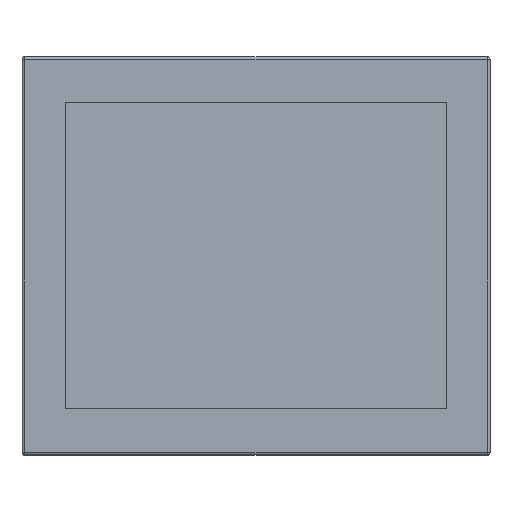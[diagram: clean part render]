
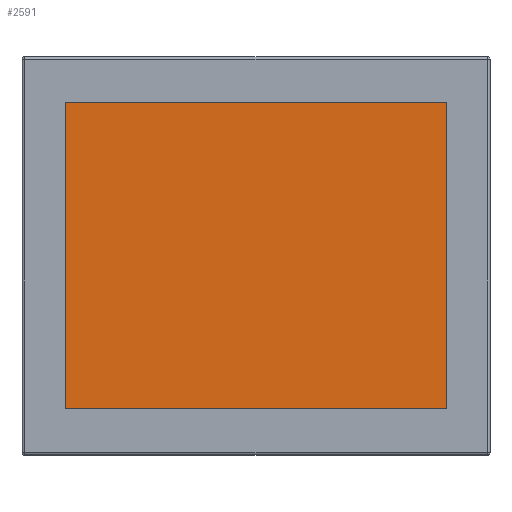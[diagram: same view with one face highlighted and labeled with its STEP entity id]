
A CAD part, top view. The second image highlights one B-rep face of the part: STEP entity #2591.
In plain terms, the highlighted planar face has unit normal (0, 0, 1).
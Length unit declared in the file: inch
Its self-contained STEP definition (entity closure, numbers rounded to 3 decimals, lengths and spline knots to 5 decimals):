
#377 = LINE ( 'NONE', #2727, #2238 ) ;
#594 = EDGE_LOOP ( 'NONE', ( #1218, #1362, #2497, #3131 ) ) ;
#827 = EDGE_CURVE ( 'NONE', #2493, #2643, #2195, .T. ) ;
#1150 = DIRECTION ( 'NONE',  ( 1., 0., 0. ) ) ;
#1165 = CARTESIAN_POINT ( 'NONE',  ( 7.495, 6.015, -0.095 ) ) ;
#1218 = ORIENTED_EDGE ( 'NONE', *, *, #2313, .T. ) ;
#1226 = FACE_OUTER_BOUND ( 'NONE', #594, .T. ) ;
#1245 = CARTESIAN_POINT ( 'NONE',  ( -7.495, 6.015, -0.095 ) ) ;
#1362 = ORIENTED_EDGE ( 'NONE', *, *, #2087, .T. ) ;
#1393 = DIRECTION ( 'NONE',  ( 0., -1., 0. ) ) ;
#1416 = CARTESIAN_POINT ( 'NONE',  ( -7.495, 6.015, -0.095 ) ) ;
#1501 = PLANE ( 'NONE',  #2596 ) ;
#1516 = LINE ( 'NONE', #1525, #1879 ) ;
#1525 = CARTESIAN_POINT ( 'NONE',  ( 7.495, 6.015, -0.095 ) ) ;
#1879 = VECTOR ( 'NONE', #3100, 39.37008 ) ;
#1989 = LINE ( 'NONE', #1416, #2772 ) ;
#2087 = EDGE_CURVE ( 'NONE', #3491, #2409, #377, .T. ) ;
#2142 = CARTESIAN_POINT ( 'NONE',  ( 0., 0., -0.095 ) ) ;
#2151 = DIRECTION ( 'NONE',  ( 0., 0., 1. ) ) ;
#2195 = LINE ( 'NONE', #2210, #2692 ) ;
#2210 = CARTESIAN_POINT ( 'NONE',  ( -7.495, 6.015, -0.095 ) ) ;
#2238 = VECTOR ( 'NONE', #1150, 39.37008 ) ;
#2313 = EDGE_CURVE ( 'NONE', #2643, #3491, #1989, .T. ) ;
#2409 = VERTEX_POINT ( 'NONE', #2433 ) ;
#2433 = CARTESIAN_POINT ( 'NONE',  ( 7.495, -6.015, -0.095 ) ) ;
#2493 = VERTEX_POINT ( 'NONE', #1165 ) ;
#2497 = ORIENTED_EDGE ( 'NONE', *, *, #3324, .T. ) ;
#2591 = ADVANCED_FACE ( 'NONE', ( #1226 ), #1501, .T. ) ;
#2596 = AXIS2_PLACEMENT_3D ( 'NONE', #2142, #2151, #3361 ) ;
#2643 = VERTEX_POINT ( 'NONE', #1245 ) ;
#2692 = VECTOR ( 'NONE', #2849, 39.37008 ) ;
#2727 = CARTESIAN_POINT ( 'NONE',  ( -7.495, -6.015, -0.095 ) ) ;
#2772 = VECTOR ( 'NONE', #1393, 39.37008 ) ;
#2849 = DIRECTION ( 'NONE',  ( -1., 0., 0. ) ) ;
#3100 = DIRECTION ( 'NONE',  ( 0., 1., 0. ) ) ;
#3131 = ORIENTED_EDGE ( 'NONE', *, *, #827, .T. ) ;
#3204 = CARTESIAN_POINT ( 'NONE',  ( -7.495, -6.015, -0.095 ) ) ;
#3324 = EDGE_CURVE ( 'NONE', #2409, #2493, #1516, .T. ) ;
#3361 = DIRECTION ( 'NONE',  ( 1., 0., 0. ) ) ;
#3491 = VERTEX_POINT ( 'NONE', #3204 ) ;
